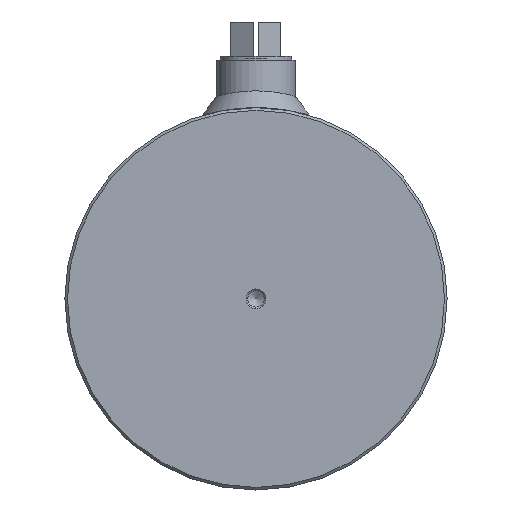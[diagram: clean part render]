
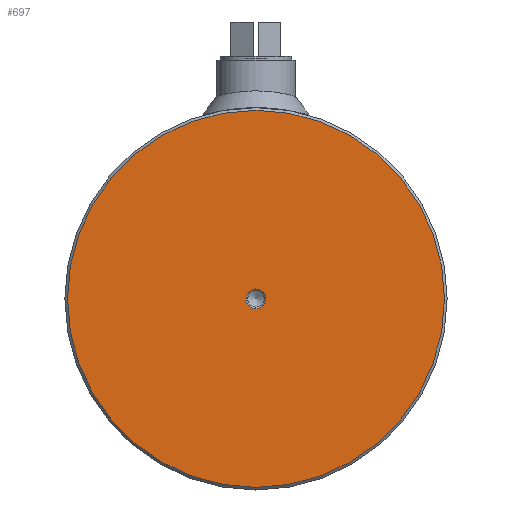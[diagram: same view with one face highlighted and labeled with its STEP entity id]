
A CAD part, left-side view. The second image highlights one B-rep face of the part: STEP entity #697.
In plain terms, the highlighted planar face has unit normal (-1, 0, 0).
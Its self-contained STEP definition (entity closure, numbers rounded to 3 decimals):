
#697 = ADVANCED_FACE( '', ( #1334, #1335 ), #1336, .F. );
#1334 = FACE_BOUND( '', #2580, .T. );
#1335 = FACE_OUTER_BOUND( '', #2581, .T. );
#1336 = PLANE( '', #2582 );
#2580 = EDGE_LOOP( '', ( #4159 ) );
#2581 = EDGE_LOOP( '', ( #4160 ) );
#2582 = AXIS2_PLACEMENT_3D( '', #4161, #4162, #4163 );
#4159 = ORIENTED_EDGE( '', *, *, #5072, .T. );
#4160 = ORIENTED_EDGE( '', *, *, #5190, .T. );
#4161 = CARTESIAN_POINT( '', ( -42., 0., 72.5 ) );
#4162 = DIRECTION( '', ( 1., 0., 0. ) );
#4163 = DIRECTION( '', ( 0., 0., -1. ) );
#5072 = EDGE_CURVE( '', #6135, #6135, #6136, .T. );
#5190 = EDGE_CURVE( '', #6310, #6310, #6311, .F. );
#6135 = VERTEX_POINT( '', #7316 );
#6136 = CIRCLE( '', #7317, 3.75 );
#6310 = VERTEX_POINT( '', #8598 );
#6311 = CIRCLE( '', #8599, 71.5 );
#7316 = CARTESIAN_POINT( '', ( -42., 0., -3.75 ) );
#7317 = AXIS2_PLACEMENT_3D( '', #9478, #9479, #9480 );
#8598 = CARTESIAN_POINT( '', ( -42., 0., -71.5 ) );
#8599 = AXIS2_PLACEMENT_3D( '', #9617, #9618, #9619 );
#9478 = CARTESIAN_POINT( '', ( -42., 0., 0. ) );
#9479 = DIRECTION( '', ( 1., 0., 0. ) );
#9480 = DIRECTION( '', ( 0., 0., -1. ) );
#9617 = CARTESIAN_POINT( '', ( -42., 0., 0. ) );
#9618 = DIRECTION( '', ( 1., 0., 0. ) );
#9619 = DIRECTION( '', ( 0., 0., -1. ) );
